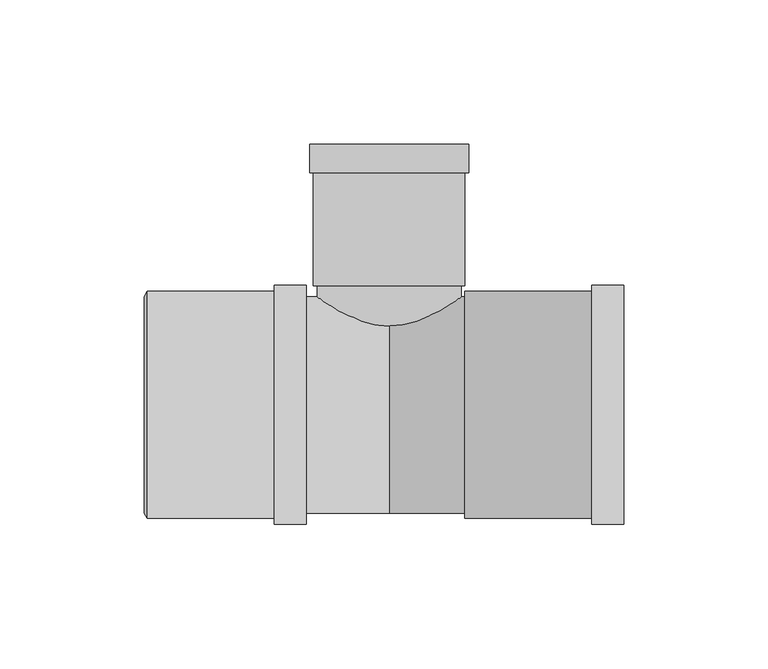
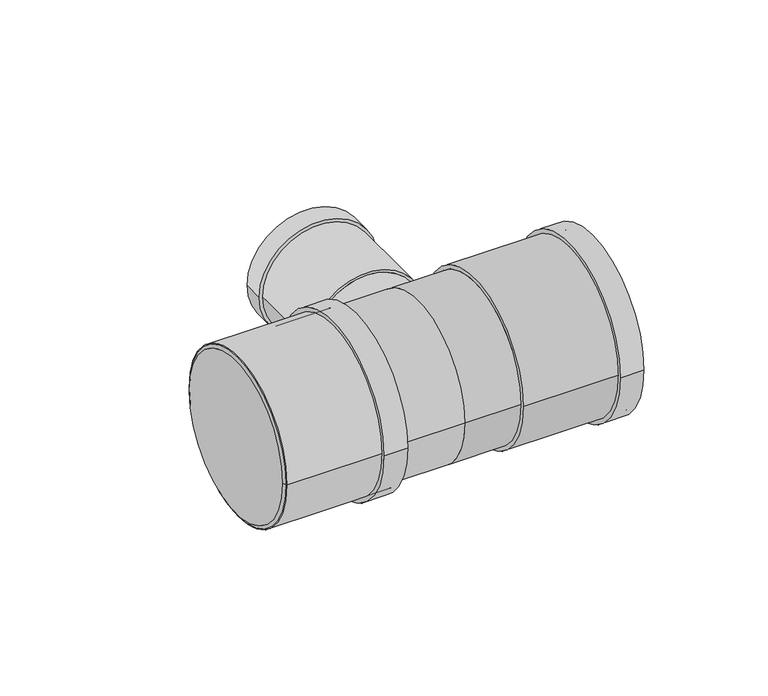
"""IFC4 building model written with IfcOpenShell, lengths in millimetres: pipe fitting geometry, Superdrain HTEA Branch : Superdrain HTEA Branch."""

import ifcopenshell
import ifcopenshell.guid

model = None  # the IFC model being written
_history = None  # IfcOwnerHistory: only IFC2X3 demands one
_inside = {}  # id of a spatial element -> (the spatial element, [elements in it])
_under = {}  # id of a project, library or spatial element -> (it, [spatial elements below it])
_declared = {}  # id of a project -> (the project, [libraries it declares])
_typed = {}  # id of a type object -> (the type object, [elements of that type])
_made_of = {}  # id of a material, layer set ... -> (it, [elements and type objects made of it])


def new_model(schema):
    """Start an empty IFC model of exactly this schema.

    Asked for "IFC4X3", IfcOpenShell would pick the latest addendum, in which some entities
    have other attributes; the version numbers below select the first issue.
    IFC2X3 requires an IfcOwnerHistory on every rooted entity: one is made here for all.
    """
    global model, _history
    if schema == "IFC4X3":
        model = ifcopenshell.file(schema_version=(4, 3, 0, 0))
    else:
        model = ifcopenshell.file(schema=schema)
    _inside.clear()
    _under.clear()
    _declared.clear()
    _typed.clear()
    _made_of.clear()
    _history = None
    if model.schema == "IFC2X3":
        org = make("IfcOrganization", Name="unknown")
        user = make(
            "IfcPersonAndOrganization",
            ThePerson=make("IfcPerson", FamilyName="unknown"),
            TheOrganization=org,
        )
        app = make(
            "IfcApplication",
            ApplicationDeveloper=org,
            Version="unknown",
            ApplicationFullName="unknown",
            ApplicationIdentifier="unknown",
        )
        _history = make(
            "IfcOwnerHistory",
            OwningUser=user,
            OwningApplication=app,
            ChangeAction="ADDED",
            CreationDate=0,
        )
    return model


def make(cls, **values):
    """One entity of the class cls with the attributes given. An attribute that is None is left unset."""
    return model.create_entity(
        cls, **{name: value for name, value in values.items() if value is not None}
    )


def rooted(cls, **values):
    """An entity with a GlobalId (a new one), such as an element, a storey or a relation."""
    return make(cls, GlobalId=ifcopenshell.guid.new(), OwnerHistory=_history, **values)


def si_unit(unit_type, name, prefix=None):
    """IfcSIUnit, for example si_unit("LENGTHUNIT", "METRE", prefix="MILLI")."""
    return make("IfcSIUnit", UnitType=unit_type, Prefix=prefix, Name=name)


def assignment(units):
    """IfcUnitAssignment: the units of a project."""
    return None if units is None else make("IfcUnitAssignment", Units=units)


def point(xyz):
    """IfcCartesianPoint."""
    return None if xyz is None else make("IfcCartesianPoint", Coordinates=xyz)


def direction(xyz):
    """IfcDirection."""
    return None if xyz is None else make("IfcDirection", DirectionRatios=xyz)


def frame(location, z_axis=None, x_axis=None):
    """IfcAxis2Placement3D, a coordinate frame: its origin and axes. An axis left out is left unset."""
    return make(
        "IfcAxis2Placement3D",
        Location=point(location),
        Axis=direction(z_axis),
        RefDirection=direction(x_axis),
    )


def frame_2d(location, x_axis=None):
    """IfcAxis2Placement2D, a coordinate frame in the plane: its origin and x axis."""
    return make(
        "IfcAxis2Placement2D", Location=point(location), RefDirection=direction(x_axis)
    )


def origin():
    """The frame at (0, 0, 0) with its axes left unset."""
    return frame((0.0, 0.0, 0.0))


def origin_2d():
    """The frame at (0, 0) in the plane with its x axis left unset."""
    return frame_2d((0.0, 0.0))


def place(relative_to, where):
    """IfcLocalPlacement: puts the frame where relative to a parent placement (None: the world)."""
    return make(
        "IfcLocalPlacement", PlacementRelTo=relative_to, RelativePlacement=where
    )


def context(
    kind, dimensions, precision=None, world=None, true_north=None, identifier=None
):
    """IfcGeometricRepresentationContext, for example the 3D "Model" context."""
    return make(
        "IfcGeometricRepresentationContext",
        ContextIdentifier=identifier,
        ContextType=kind,
        CoordinateSpaceDimension=dimensions,
        Precision=precision,
        WorldCoordinateSystem=world,
        TrueNorth=true_north,
    )


def project(units=None, contexts=None):
    """IfcProject with its units and contexts."""
    return rooted(
        "IfcProject",
        Name="project",
        RepresentationContexts=contexts,
        UnitsInContext=assignment(units),
    )


def spatial(cls, under=None, at=None, **own):
    """A site, building, storey or space (cls), placed at a placement, below another one or the project."""
    s = rooted(cls, ObjectPlacement=at, **own)
    if under is not None:
        _under.setdefault(under.id(), (under, []))[1].append(s)
    return s


def polyline(points):
    """IfcPolyline through the points."""
    return make("IfcPolyline", Points=[point(p) for p in points])


def circle_curve(where, radius):
    """IfcCircle in the frame where."""
    return make("IfcCircle", Position=where, Radius=radius)


def trimmed(basis, trim1, trim2, sense, master):
    """IfcTrimmedCurve: the piece of a basis curve between two trims."""
    return make(
        "IfcTrimmedCurve",
        BasisCurve=basis,
        Trim1=trim1,
        Trim2=trim2,
        SenseAgreement=sense,
        MasterRepresentation=master,
    )


def segment(curve, same_sense, transition):
    """IfcCompositeCurveSegment."""
    return make(
        "IfcCompositeCurveSegment",
        Transition=transition,
        SameSense=same_sense,
        ParentCurve=curve,
    )


def composite_curve(segments, self_intersect=None):
    """IfcCompositeCurve: segments joined end to end."""
    return make("IfcCompositeCurve", Segments=segments, SelfIntersect=self_intersect)


def outline(outer, holes=None, kind="AREA"):
    """IfcArbitraryClosedProfileDef: a profile drawn as a closed curve; with holes, ...WithVoids."""
    if holes is None:
        return make("IfcArbitraryClosedProfileDef", ProfileType=kind, OuterCurve=outer)
    return make(
        "IfcArbitraryProfileDefWithVoids",
        ProfileType=kind,
        OuterCurve=outer,
        InnerCurves=holes,
    )


def extrude(swept, where, along, depth):
    """IfcExtrudedAreaSolid: the profile swept, set in the frame where, extruded along a direction by depth."""
    return make(
        "IfcExtrudedAreaSolid",
        SweptArea=swept,
        Position=where,
        ExtrudedDirection=direction(along),
        Depth=depth,
    )


def shape(context_of_items, identifier, shape_type, items):
    """IfcShapeRepresentation: the items that make up one representation, for example the "Body"."""
    return make(
        "IfcShapeRepresentation",
        ContextOfItems=context_of_items,
        RepresentationIdentifier=identifier,
        RepresentationType=shape_type,
        Items=items,
    )


def source(mapping_origin, context_of_items, identifier, shape_type, items):
    """IfcRepresentationMap: a shape defined once, which mapped items show again and again."""
    return make(
        "IfcRepresentationMap",
        MappingOrigin=mapping_origin,
        MappedRepresentation=shape(context_of_items, identifier, shape_type, items),
    )


def transform(
    local_origin,
    x_axis=None,
    y_axis=None,
    z_axis=None,
    scale=None,
    scale2=None,
    scale3=None,
    uniform=True,
):
    """IfcCartesianTransformationOperator3D, or its non-uniform kind. x_axis, y_axis, z_axis: its Axis1, 2, 3."""
    if uniform:
        return make(
            "IfcCartesianTransformationOperator3D",
            Axis1=direction(x_axis),
            Axis2=direction(y_axis),
            LocalOrigin=point(local_origin),
            Scale=scale,
            Axis3=direction(z_axis),
        )
    return make(
        "IfcCartesianTransformationOperator3DnonUniform",
        Axis1=direction(x_axis),
        Axis2=direction(y_axis),
        LocalOrigin=point(local_origin),
        Scale=scale,
        Axis3=direction(z_axis),
        Scale2=scale2,
        Scale3=scale3,
    )


def mapped(mapping_source, mapping_target):
    """IfcMappedItem: shows the shape of a source again, moved by a transform."""
    return make(
        "IfcMappedItem", MappingSource=mapping_source, MappingTarget=mapping_target
    )


def made_of(thing, what):
    """Note that an element or type object is made of a material, layer set ...; save() writes the relation."""
    if what is not None:
        _made_of.setdefault(what.id(), (what, []))[1].append(thing)
    return thing


def element(
    cls,
    number,
    at=None,
    inside=None,
    cuts=None,
    type_object=None,
    material=None,
    context=None,
    identifier="Body",
    shape_type=None,
    held_by="IfcProductDefinitionShape",
    body=None,
    shapes=None,
    **own,
):
    """One element of the class cls, such as IfcWall. Its Tag is "e" and its number.

    at: its placement. inside: the storey or other place that contains it. cuts: it is an
    opening in that element (IfcRelVoidsElement). A single representation is given by context,
    identifier, shape_type and body (its items); several are given by shapes. held_by: the class
    of the entity that holds the representations. save() writes the other relations.
    """
    e = rooted(cls, Tag="e%d" % number, ObjectPlacement=at, **own)
    if body is not None:
        shapes = [shape(context, identifier, shape_type, body)]
    if shapes is not None:
        e.Representation = make(held_by, Representations=shapes)
    if inside is not None:
        _inside.setdefault(inside.id(), (inside, []))[1].append(e)
    if cuts is not None:
        rooted(
            "IfcRelVoidsElement", RelatingBuildingElement=cuts, RelatedOpeningElement=e
        )
    if type_object is not None:
        _typed.setdefault(type_object.id(), (type_object, []))[1].append(e)
    return made_of(e, material)


def aggregate(whole, parts):
    """IfcRelAggregates: a whole, such as a stair, and the parts it consists of."""
    return rooted("IfcRelAggregates", RelatingObject=whole, RelatedObjects=parts)


def save(model, path):
    """Write the relations noted so far, then the file.

    IfcRelAggregates (storeys below a building ...), IfcRelContainedInSpatialStructure (elements
    in a storey), IfcRelDefinesByType, IfcRelAssociatesMaterial and IfcRelDeclares: one each for
    every whole, place, type object, material and project.
    """
    for whole, parts in _under.values():
        aggregate(whole, parts)
    for where, things in _inside.values():
        rooted(
            "IfcRelContainedInSpatialStructure",
            RelatedElements=things,
            RelatingStructure=where,
        )
    for kind, things in _typed.values():
        rooted("IfcRelDefinesByType", RelatedObjects=things, RelatingType=kind)
    for what, things in _made_of.values():
        rooted("IfcRelAssociatesMaterial", RelatedObjects=things, RelatingMaterial=what)
    for by, libraries in _declared.values():
        rooted("IfcRelDeclares", RelatingContext=by, RelatedDefinitions=libraries)
    model.write(path)


def plane_surface(at):
    """IfcPlane: the flat surface through the origin of the frame at, square to its z axis."""
    return make("IfcPlane", Position=at)


def revolved_surface(curve, axis_point, axis_direction):
    """IfcSurfaceOfRevolution: the curve turned about the line through axis_point along axis_direction."""
    return make(
        "IfcSurfaceOfRevolution",
        SweptCurve=make("IfcArbitraryOpenProfileDef", ProfileType="CURVE", Curve=curve),
        AxisPosition=make("IfcAxis1Placement", Location=point(axis_point), Axis=direction(axis_direction)),
    )


def advanced_brep(points, edges, surfaces, faces):
    """IfcAdvancedBrep: a solid bounded by faces that lie on surfaces and meet in shared edges.

    An edge is (start, end): straight between two places in points (the first is 0);
    or (start, end, curve); or (start, end, curve, False) where it runs against its curve.
    A face is (place in surfaces, loops), or (place, loops, False) where it looks against
    its surface's normal. A loop lists edges by number (the first is 1), with a minus sign
    where the edge is run from its end to its start. The first loop is the outer one.
    """
    corners = [point(p) for p in points]
    vertices = [make("IfcVertexPoint", VertexGeometry=c) for c in corners]
    made = []
    for start, end, *more in edges:
        made.append(
            make(
                "IfcEdgeCurve",
                EdgeStart=vertices[start],
                EdgeEnd=vertices[end],
                EdgeGeometry=more[0] if more else make("IfcPolyline", Points=[corners[start], corners[end]]),
                SameSense=more[1] if len(more) > 1 else True,
            )
        )
    hull = []
    for where, loops, *sense in faces:
        bounds = []
        for j, loop in enumerate(loops):
            ring = [make("IfcOrientedEdge", EdgeElement=made[abs(k) - 1], Orientation=k > 0) for k in loop]
            bounds.append(
                make(
                    "IfcFaceOuterBound" if j == 0 else "IfcFaceBound",
                    Bound=make("IfcEdgeLoop", EdgeList=ring),
                    Orientation=True,
                )
            )
        hull.append(make("IfcAdvancedFace", Bounds=bounds, FaceSurface=surfaces[where], SameSense=sense[0] if sense else True))
    return make("IfcAdvancedBrep", Outer=make("IfcClosedShell", CfsFaces=hull))


def pipe_fitting_d2d6dc7e(model_context):
    return source(origin(), model_context, "Body", "SolidModel", [
        extrude(outline(composite_curve([segment(trimmed(circle_curve(origin_2d(), 39.375), [point((39.375, 0.0))], [point((-39.375, 0.0))], False, "CARTESIAN"), True, "CONTINUOUS"), segment(trimmed(circle_curve(origin_2d(), 39.375), [point((-39.375, 0.0))], [point((39.375, 0.0))], False, "CARTESIAN"), True, "CONTINUOUS")], self_intersect=False), holes=[composite_curve([segment(trimmed(circle_curve(origin_2d(), 37.5), [point((37.5, 0.0))], [point((-37.5, 0.0))], True, "CARTESIAN"), True, "CONTINUOUS"), segment(trimmed(circle_curve(origin_2d(), 37.5), [point((-37.5, 0.0))], [point((37.5, 0.0))], True, "CARTESIAN"), True, "CONTINUOUS")], self_intersect=False)]), frame((-83.8, 0.0, 0.0), z_axis=(1.0, 0.0, 0.0), x_axis=(0.0, 1.0, 0.0)), (0.0, 0.0, 1.0), 55.0),
        extrude(outline(composite_curve([segment(trimmed(circle_curve(origin_2d(), 41.34375), [point((41.34375, 0.0))], [point((-41.34375, 0.0))], False, "CARTESIAN"), True, "CONTINUOUS"), segment(trimmed(circle_curve(origin_2d(), 41.34375), [point((-41.34375, 0.0))], [point((41.34375, 0.0))], False, "CARTESIAN"), True, "CONTINUOUS")], self_intersect=False), holes=[composite_curve([segment(trimmed(circle_curve(origin_2d(), 37.5), [point((37.5, 0.0))], [point((-37.5, 0.0))], True, "CARTESIAN"), True, "CONTINUOUS"), segment(trimmed(circle_curve(origin_2d(), 37.5), [point((-37.5, 0.0))], [point((37.5, 0.0))], True, "CARTESIAN"), True, "CONTINUOUS")], self_intersect=False)]), frame((-39.8, 0.0, 0.0), z_axis=(1.0, 0.0, 0.0), x_axis=(0.0, 1.0, 0.0)), (0.0, 0.0, 1.0), 11.0),
        advanced_brep(
        [(-84.8, 37.5, 0.0), (-84.8, -37.5, 0.0), (-83.8, 39.375, 0.0), (-83.8, -39.375, 0.0)],
        [
            (0, 1, circle_curve(frame((-84.8, 0.0, 0.0), z_axis=(-1.0, 0.0, 0.0), x_axis=(0.0, 1.0000000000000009, 0.0)), 37.5)),
            (1, 0, circle_curve(frame((-84.8, 0.0, 0.0), z_axis=(-1.0, 0.0, 0.0), x_axis=(0.0, -1.0000000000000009, 0.0)), 37.5)),
            (2, 3, circle_curve(frame((-83.8, 0.0, 0.0), z_axis=(1.0, 0.0, 0.0), x_axis=(0.0, -1.0000000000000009, 0.0)), 39.375)),
            (3, 2, circle_curve(frame((-83.8, 0.0, 0.0), z_axis=(1.0, 0.0, 0.0), x_axis=(0.0, 1.0000000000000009, 0.0)), 39.375)),
            (3, 1),
            (0, 2),
        ],
        [
            plane_surface(frame((-84.8, 0.0, 0.0), z_axis=(-1.0, 0.0, 0.0), x_axis=(0.0, 0.0, -1.0))),
            plane_surface(frame((-83.8, 0.0, 0.0), z_axis=(1.0, 0.0, 0.0), x_axis=(0.0, 0.0, -1.0))),
            revolved_surface(polyline([(-84.8, 37.49999999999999, 0.0), (-83.8, 39.375, 0.0)]), (-104.8, 0.0, 0.0), (1.0000000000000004, 0.0, 0.0)),
            revolved_surface(polyline([(-84.8, -37.49999999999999, 0.0), (-83.8, -39.375, 0.0)]), (-104.8, 0.0, 0.0), (1.0000000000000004, 0.0, 0.0)),
        ],
        [
            (0, [[1, 2]]),
            (1, [[3, 4]]),
            (2, [[-4, 5, -1, 6]]),
            (3, [[-3, -6, -2, -5]]),
        ],
    ),
        extrude(outline(composite_curve([segment(trimmed(circle_curve(origin_2d(), 39.375), [point((-39.375, 0.0))], [point((39.375, 0.0))], False, "CARTESIAN"), True, "CONTINUOUS"), segment(trimmed(circle_curve(origin_2d(), 39.375), [point((39.375, 0.0))], [point((-39.375, 0.0))], False, "CARTESIAN"), True, "CONTINUOUS")], self_intersect=False), holes=[composite_curve([segment(trimmed(circle_curve(origin_2d(), 37.5), [point((37.5, 0.0))], [point((-37.5, 0.0))], True, "CARTESIAN"), True, "CONTINUOUS"), segment(trimmed(circle_curve(origin_2d(), 37.5), [point((-37.5, 0.0))], [point((37.5, 0.0))], True, "CARTESIAN"), True, "CONTINUOUS")], self_intersect=False)]), frame((26.2, 0.0, 0.0), z_axis=(1.0, 0.0, 0.0), x_axis=(0.0, 1.0, 0.0)), (0.0, 0.0, 1.0), 55.0),
        extrude(outline(composite_curve([segment(trimmed(circle_curve(origin_2d(), 41.34375), [point((41.34375, 0.0))], [point((-41.34375, 0.0))], False, "CARTESIAN"), True, "CONTINUOUS"), segment(trimmed(circle_curve(origin_2d(), 41.34375), [point((-41.34375, 0.0))], [point((41.34375, 0.0))], False, "CARTESIAN"), True, "CONTINUOUS")], self_intersect=False), holes=[composite_curve([segment(trimmed(circle_curve(origin_2d(), 37.5), [point((37.5, 0.0))], [point((-37.5, 0.0))], True, "CARTESIAN"), True, "CONTINUOUS"), segment(trimmed(circle_curve(origin_2d(), 37.5), [point((-37.5, 0.0))], [point((37.5, 0.0))], True, "CARTESIAN"), True, "CONTINUOUS")], self_intersect=False)]), frame((70.2, 0.0, 0.0), z_axis=(1.0, 0.0, 0.0), x_axis=(0.0, 1.0, 0.0)), (0.0, 0.0, 1.0), 11.0),
        extrude(outline(composite_curve([segment(trimmed(circle_curve(origin_2d(), 25.0), [point((0.0, 25.0))], [point((0.0, -25.0))], False, "CARTESIAN"), True, "CONTINUOUS"), segment(trimmed(circle_curve(origin_2d(), 25.0), [point((0.0, -25.0))], [point((0.0, 25.0))], False, "CARTESIAN"), True, "CONTINUOUS")], self_intersect=False)), frame((0.0, 0.0, 0.0), z_axis=(0.0, 1.0, 0.0), x_axis=(0.0, 0.0, 1.0)), (0.0, 0.0, 1.0), 41.2),
        extrude(outline(composite_curve([segment(trimmed(circle_curve(origin_2d(), 37.5), [point((37.5, 0.0))], [point((-37.5, 0.0))], False, "CARTESIAN"), True, "CONTINUOUS"), segment(trimmed(circle_curve(origin_2d(), 37.5), [point((-37.5, 0.0))], [point((37.5, 0.0))], False, "CARTESIAN"), True, "CONTINUOUS")], self_intersect=False)), frame((-83.8, 0.0, 0.0), z_axis=(1.0, 0.0, 0.0), x_axis=(0.0, 1.0, 0.0)), (0.0, 0.0, 1.0), 83.8),
        extrude(outline(composite_curve([segment(trimmed(circle_curve(origin_2d(), 37.5), [point((-37.5, 0.0))], [point((37.5, 0.0))], False, "CARTESIAN"), True, "CONTINUOUS"), segment(trimmed(circle_curve(origin_2d(), 37.5), [point((37.5, 0.0))], [point((-37.5, 0.0))], False, "CARTESIAN"), True, "CONTINUOUS")], self_intersect=False)), frame((0.0, 0.0, 0.0), z_axis=(1.0, 0.0, 0.0), x_axis=(0.0, 1.0, 0.0)), (0.0, 0.0, 1.0), 26.2),
        extrude(outline(composite_curve([segment(trimmed(circle_curve(origin_2d(), 27.5625), [point((0.0, 27.5625))], [point((0.0, -27.5625))], False, "CARTESIAN"), True, "CONTINUOUS"), segment(trimmed(circle_curve(origin_2d(), 27.5625), [point((0.0, -27.5625))], [point((0.0, 27.5625))], False, "CARTESIAN"), True, "CONTINUOUS")], self_intersect=False), holes=[composite_curve([segment(trimmed(circle_curve(origin_2d(), 25.0), [point((0.0, 25.0))], [point((0.0, -25.0))], True, "CARTESIAN"), True, "CONTINUOUS"), segment(trimmed(circle_curve(origin_2d(), 25.0), [point((0.0, -25.0))], [point((0.0, 25.0))], True, "CARTESIAN"), True, "CONTINUOUS")], self_intersect=False)]), frame((0.0, 80.4, 0.0), z_axis=(0.0, 1.0, 0.0), x_axis=(0.0, 0.0, 1.0)), (0.0, 0.0, 1.0), 9.8),
        extrude(outline(composite_curve([segment(trimmed(circle_curve(origin_2d(), 26.25), [point((0.0, 26.25))], [point((0.0, -26.25))], False, "CARTESIAN"), True, "CONTINUOUS"), segment(trimmed(circle_curve(origin_2d(), 26.25), [point((0.0, -26.25))], [point((0.0, 26.25))], False, "CARTESIAN"), True, "CONTINUOUS")], self_intersect=False), holes=[composite_curve([segment(trimmed(circle_curve(origin_2d(), 25.0), [point((0.0, 25.0))], [point((0.0, -25.0))], True, "CARTESIAN"), True, "CONTINUOUS"), segment(trimmed(circle_curve(origin_2d(), 25.0), [point((0.0, -25.0))], [point((0.0, 25.0))], True, "CARTESIAN"), True, "CONTINUOUS")], self_intersect=False)]), frame((0.0, 41.2, 0.0), z_axis=(0.0, 1.0, 0.0), x_axis=(0.0, 0.0, 1.0)), (0.0, 0.0, 1.0), 49.0),
    ])


if __name__ == "__main__":
    model = new_model("IFC4")
    model_context = context("Model", 3, world=origin())
    ifc_project = project(units=[si_unit("LENGTHUNIT", "METRE", prefix="MILLI")], contexts=[model_context])
    site = spatial("IfcSite", under=ifc_project)
    building = spatial("IfcBuilding", under=site)
    placement = place(None, origin())
    pipe_fitting_shape = pipe_fitting_d2d6dc7e(model_context)
    element("IfcPipeFitting", 1, ObjectType="Superdrain HTEA Branch : Superdrain HTEA Branch", at=placement, inside=building, context=model_context, shape_type="MappedRepresentation", body=[
        mapped(pipe_fitting_shape, transform((0.0, 0.0, 0.0), x_axis=(1.0, 0.0, 0.0), y_axis=(0.0, 1.0, 0.0), z_axis=(0.0, 0.0, 1.0))),
    ])
    save(model, "model.ifc")
